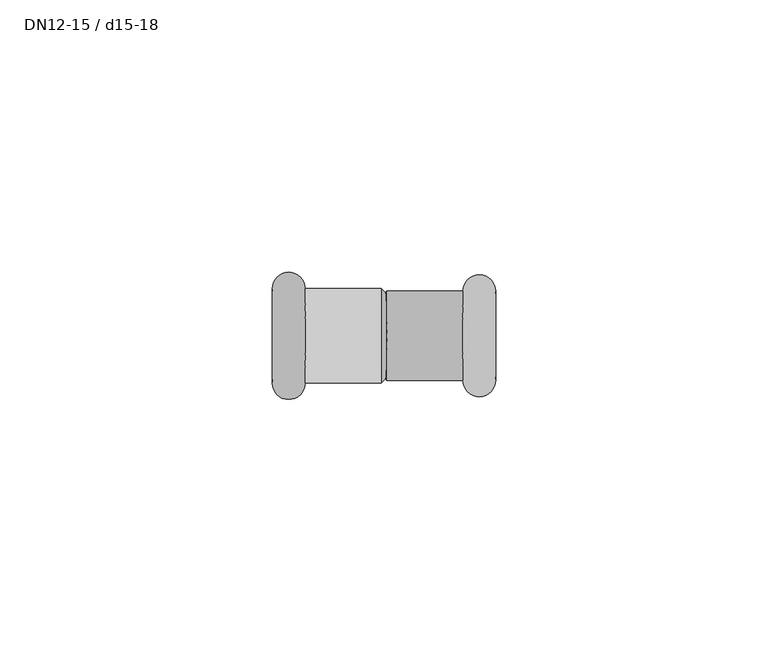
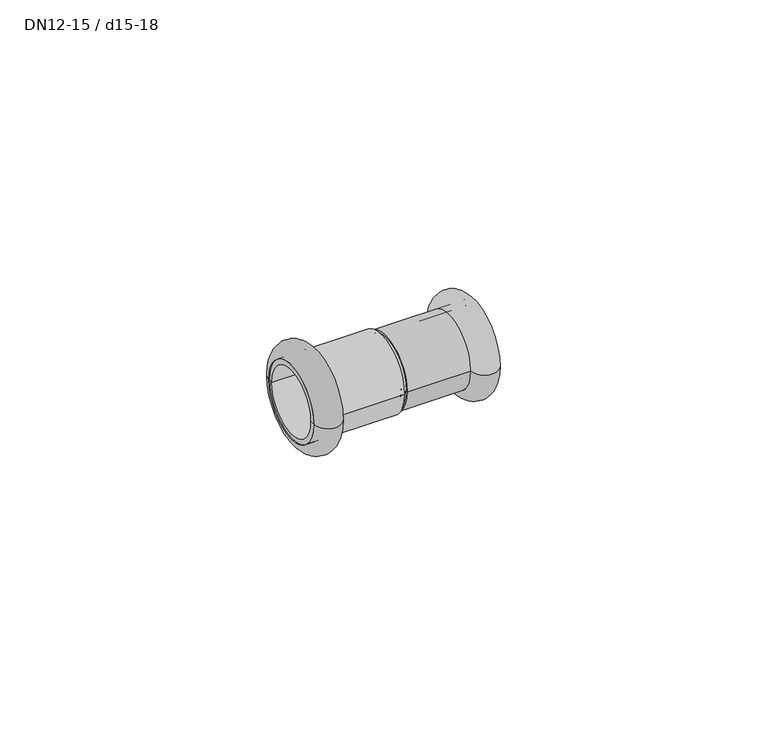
"""IFC4 building model written with IfcOpenShell, lengths in millimetres: pipe fitting geometry, NLRS_50_PIF_UN_Mapress koper verloopsok overgang_geb : DN12-15 / d15-18."""

from ifc_helpers import new_model, si_unit, point, frame, origin, place, context, project, spatial, polyline, circle_curve, ellipse_curve, trimmed, source, transform, mapped, element, save
from ifc_brep_helpers import plane_surface, cylinder_surface, revolved_surface, advanced_brep


def dn12_15_d15_18_9d24d5f7(model_context):
    return source(origin(), model_context, "Body", "AdvancedBrep", [
        advanced_brep(
        [(-20.5, -8.7, 0.0), (-14.5, -8.7, 0.0), (-14.5, 8.7, 0.0), (-20.5, 8.7, 0.0)],
        [
            (0, 1),
            (1, 2, circle_curve(frame((-14.5, 0.0, 0.0), z_axis=(1.0, 0.0, 0.0), x_axis=(0.0, 1.0, 0.0)), 8.7)),
            (2, 3),
            (3, 0, circle_curve(frame((-20.5, 0.0, 0.0), z_axis=(-1.0, 0.0, 0.0), x_axis=(0.0, 1.0, 0.0)), 8.7)),
            (2, 1, circle_curve(frame((-14.5, 0.0, 0.0), z_axis=(1.0, 0.0, 0.0), x_axis=(0.0, 1.0, 0.0)), 8.7)),
            (0, 3, circle_curve(frame((-20.5, 0.0, 0.0), z_axis=(-1.0, 0.0, 0.0), x_axis=(0.0, 1.0, 0.0)), 8.7)),
            (1, 0, circle_curve(frame((-17.5, -8.7, 0.0), z_axis=(0.0, 0.0, -1.0), x_axis=(-1.0, 0.0, 0.0)), 3.0)),
            (3, 2, circle_curve(frame((-17.5, 8.7, 0.0), z_axis=(0.0, 0.0, -1.0), x_axis=(-1.0, 0.0, 0.0)), 3.0)),
        ],
        [
            revolved_surface(polyline([(-14.499999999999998, 8.7, 0.0), (-20.5, 8.7, 0.0)]), (9.8779068, 0.0, 0.0), (1.0, 0.0, 0.0)),
            revolved_surface(trimmed(ellipse_curve(frame((-17.5, 8.7, 0.0), z_axis=(0.0, 0.0, -1.0), x_axis=(-1.0, 0.0, 0.0)), 3.0, 3.0), [point((-20.5, 8.7, 0.0))], [point((-14.5, 8.7, 0.0))], True, "CARTESIAN"), (9.8779068, 0.0, 0.0), (1.0, 0.0, 0.0)),
        ],
        [
            (0, [[1, 2, 3, 4]]),
            (0, [[-3, 5, -1, 6]]),
            (1, [[7, -4, 8, -2]]),
            (1, [[-8, -6, -7, -5]]),
        ],
    ),
        advanced_brep(
        [(-20.5, -7.5, 0.0), (0.7, -7.5, 0.0), (0.7, 7.5, 0.0), (-20.5, 7.5, 0.0), (-0.5, -8.7, 0.0), (-20.5, -8.7, 0.0), (-20.5, 8.7, 0.0), (-0.5, 8.7, 0.0)],
        [
            (0, 1),
            (1, 2, circle_curve(frame((0.7, 0.0, 0.0), z_axis=(1.0, 0.0, 0.0), x_axis=(0.0, 1.0, 0.0)), 7.5)),
            (2, 3),
            (3, 0, circle_curve(frame((-20.5, 0.0, 0.0), z_axis=(-1.0, 0.0, 0.0), x_axis=(0.0, 1.0, 0.0)), 7.5)),
            (2, 1, circle_curve(frame((0.7, 0.0, 0.0), z_axis=(1.0, 0.0, 0.0), x_axis=(0.0, 1.0, 0.0)), 7.5)),
            (0, 3, circle_curve(frame((-20.5, 0.0, 0.0), z_axis=(-1.0, 0.0, 0.0), x_axis=(0.0, 1.0, 0.0)), 7.5)),
            (4, 5),
            (5, 6, circle_curve(frame((-20.5, 0.0, 0.0), z_axis=(1.0, 0.0, 0.0), x_axis=(0.0, 1.0, 0.0)), 8.7)),
            (6, 7),
            (7, 4, circle_curve(frame((-0.5, 0.0, 0.0), z_axis=(-1.0, 0.0, 0.0), x_axis=(0.0, 1.0, 0.0)), 8.7)),
            (6, 5, circle_curve(frame((-20.5, 0.0, 0.0), z_axis=(1.0, 0.0, 0.0), x_axis=(0.0, 1.0, 0.0)), 8.7)),
            (4, 7, circle_curve(frame((-0.5, 0.0, 0.0), z_axis=(-1.0, 0.0, 0.0), x_axis=(0.0, 1.0, 0.0)), 8.7)),
            (5, 0),
            (3, 6),
            (1, 4),
            (7, 2),
        ],
        [
            revolved_surface(polyline([(0.7, 7.5, 0.0), (-20.5, 7.5, 0.0)]), (-0.5, 0.0, 0.0), (1.0, 0.0, 0.0)),
            cylinder_surface(frame((-0.5, 0.0, 0.0), z_axis=(1.0, 0.0, 0.0), x_axis=(0.0, 1.0, 0.0)), 8.7),
            plane_surface(frame((-20.5, 0.0, 0.0), z_axis=(-1.0, 0.0, 0.0), x_axis=(0.0, 1.0, 0.0))),
            revolved_surface(polyline([(-0.5, 8.7, 0.0), (0.7, 7.5, 0.0)]), (-0.5, 0.0, 0.0), (1.0, 0.0, 0.0)),
        ],
        [
            (0, [[1, 2, 3, 4]]),
            (0, [[-3, 5, -1, 6]]),
            (1, [[7, 8, 9, 10]]),
            (1, [[-9, 11, -7, 12]]),
            (2, [[13, -4, 14, -8]]),
            (2, [[-14, -6, -13, -11]]),
            (3, [[15, -10, 16, -2]]),
            (3, [[-16, -12, -15, -5]]),
        ],
    ),
        advanced_brep(
        [(20.5, -8.2, 0.0), (20.5, 8.2, 0.0), (14.5, 8.2, 0.0), (14.5, -8.2, 0.0)],
        [
            (0, 1, circle_curve(frame((20.5, 0.0, 0.0), z_axis=(1.0, 0.0, 0.0), x_axis=(0.0, 1.0, 0.0)), 8.2)),
            (1, 2),
            (2, 3, circle_curve(frame((14.5, 0.0, 0.0), z_axis=(-1.0, 0.0, 0.0), x_axis=(0.0, 1.0, 0.0)), 8.2)),
            (3, 0),
            (1, 0, circle_curve(frame((20.5, 0.0, 0.0), z_axis=(1.0, 0.0, 0.0), x_axis=(0.0, 1.0, 0.0)), 8.2)),
            (3, 2, circle_curve(frame((14.5, 0.0, 0.0), z_axis=(-1.0, 0.0, 0.0), x_axis=(0.0, 1.0, 0.0)), 8.2)),
            (2, 1, circle_curve(frame((17.5, 8.2, 0.0), z_axis=(0.0, 0.0, -1.0), x_axis=(1.0, 0.0, 0.0)), 3.0)),
            (0, 3, circle_curve(frame((17.5, -8.2, 0.0), z_axis=(0.0, 0.0, -1.0), x_axis=(1.0, 0.0, 0.0)), 3.0)),
        ],
        [
            revolved_surface(polyline([(14.499999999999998, 8.2, 0.0), (20.5, 8.2, 0.0)]), (-9.8779068, 0.0, 0.0), (-1.0, 0.0, 0.0)),
            revolved_surface(trimmed(ellipse_curve(frame((17.5, 8.2, 0.0), z_axis=(0.0, 0.0, 1.0), x_axis=(1.0, 0.0, 0.0)), 3.0, 3.0), [point((20.5, 8.2, 0.0))], [point((14.5, 8.2, 0.0))], True, "CARTESIAN"), (-9.8779068, 0.0, 0.0), (-1.0, 0.0, 0.0)),
        ],
        [
            (0, [[1, 2, 3, 4]]),
            (0, [[5, -4, 6, -2]]),
            (1, [[-3, 7, -1, 8]]),
            (1, [[-6, -8, -5, -7]]),
        ],
    ),
        advanced_brep(
        [(20.5, -7.0, 0.0), (20.5, 7.0, 0.0), (-0.7, 7.0, 0.0), (-0.7, -7.0, 0.0), (0.5, -8.2, 0.0), (0.5, 8.2, 0.0), (20.5, 8.2, 0.0), (20.5, -8.2, 0.0)],
        [
            (0, 1, circle_curve(frame((20.5, 0.0, 0.0), z_axis=(1.0, 0.0, 0.0), x_axis=(0.0, 1.0, 0.0)), 7.0)),
            (1, 2),
            (2, 3, circle_curve(frame((-0.7, 0.0, 0.0), z_axis=(-1.0, 0.0, 0.0), x_axis=(0.0, 1.0, 0.0)), 7.0)),
            (3, 0),
            (1, 0, circle_curve(frame((20.5, 0.0, 0.0), z_axis=(1.0, 0.0, 0.0), x_axis=(0.0, 1.0, 0.0)), 7.0)),
            (3, 2, circle_curve(frame((-0.7, 0.0, 0.0), z_axis=(-1.0, 0.0, 0.0), x_axis=(0.0, 1.0, 0.0)), 7.0)),
            (4, 5, circle_curve(frame((0.5, 0.0, 0.0), z_axis=(1.0, 0.0, 0.0), x_axis=(0.0, 1.0, 0.0)), 8.2)),
            (5, 6),
            (6, 7, circle_curve(frame((20.5, 0.0, 0.0), z_axis=(-1.0, 0.0, 0.0), x_axis=(0.0, 1.0, 0.0)), 8.2)),
            (7, 4),
            (5, 4, circle_curve(frame((0.5, 0.0, 0.0), z_axis=(1.0, 0.0, 0.0), x_axis=(0.0, 1.0, 0.0)), 8.2)),
            (7, 6, circle_curve(frame((20.5, 0.0, 0.0), z_axis=(-1.0, 0.0, 0.0), x_axis=(0.0, 1.0, 0.0)), 8.2)),
            (6, 1),
            (0, 7),
            (2, 5),
            (4, 3),
        ],
        [
            revolved_surface(polyline([(-0.7, 7.0, 0.0), (20.5, 7.0, 0.0)]), (0.5, 0.0, 0.0), (-1.0, 0.0, 0.0)),
            cylinder_surface(frame((0.5, 0.0, 0.0), z_axis=(-1.0, 0.0, 0.0), x_axis=(0.0, 1.0, 0.0)), 8.2),
            plane_surface(frame((20.5, 0.0, 0.0), z_axis=(1.0, 0.0, 0.0), x_axis=(0.0, 1.0, 0.0))),
            revolved_surface(polyline([(0.5, 8.2, 0.0), (-0.7, 7.0, 0.0)]), (0.5, 0.0, 0.0), (-1.0, 0.0, 0.0)),
        ],
        [
            (0, [[1, 2, 3, 4]]),
            (0, [[5, -4, 6, -2]]),
            (1, [[7, 8, 9, 10]]),
            (1, [[11, -10, 12, -8]]),
            (2, [[-9, 13, -1, 14]]),
            (2, [[-12, -14, -5, -13]]),
            (3, [[-3, 15, -7, 16]]),
            (3, [[-6, -16, -11, -15]]),
        ],
    ),
        advanced_brep(
        [(0.5, -6.0, 0.0), (0.5, 6.0, 0.0), (-0.5, -7.5, 0.0), (-0.5, 7.5, 0.0)],
        [
            (0, 1, circle_curve(frame((0.5, 0.0, 0.0), z_axis=(1.0, 0.0, 0.0), x_axis=(0.0, -1.0, 0.0)), 6.0)),
            (1, 0, circle_curve(frame((0.5, 0.0, 0.0), z_axis=(1.0, 0.0, 0.0), x_axis=(0.0, 1.0, 0.0)), 6.0)),
            (2, 3, circle_curve(frame((-0.5, 0.0, 0.0), z_axis=(-1.0, 0.0, 0.0), x_axis=(0.0, 1.0, 0.0)), 7.5)),
            (3, 2, circle_curve(frame((-0.5, 0.0, 0.0), z_axis=(-1.0, 0.0, 0.0), x_axis=(0.0, -1.0, 0.0)), 7.5)),
            (3, 1),
            (0, 2),
        ],
        [
            plane_surface(frame((0.5, 0.0, 0.0), z_axis=(1.0, 0.0, 0.0), x_axis=(0.0, 0.0, -1.0))),
            plane_surface(frame((-0.5, 0.0, 0.0), z_axis=(-1.0, 0.0, 0.0), x_axis=(0.0, 0.0, -1.0))),
            revolved_surface(polyline([(0.5, -6.0, 0.0), (-0.5, -7.5, 0.0)]), (4.5, 0.0, 0.0), (-1.0, 0.0, 0.0)),
            revolved_surface(polyline([(0.5, 6.0, 0.0), (-0.5, 7.5, 0.0)]), (4.5, 0.0, 0.0), (-1.0, 0.0, 0.0)),
        ],
        [
            (0, [[1, 2]]),
            (1, [[3, 4]]),
            (2, [[-4, 5, -1, 6]]),
            (3, [[-3, -6, -2, -5]]),
        ],
    ),
    ])


if __name__ == "__main__":
    model = new_model("IFC4")
    model_context = context("Model", 3, world=origin())
    ifc_project = project(units=[si_unit("LENGTHUNIT", "METRE", prefix="MILLI")], contexts=[model_context])
    site = spatial("IfcSite", under=ifc_project)
    building = spatial("IfcBuilding", under=site)
    placement = place(None, origin())
    dn12_15_d15_18_shape = dn12_15_d15_18_9d24d5f7(model_context)
    element("IfcPipeFitting", 1, ObjectType="NLRS_50_PIF_UN_Mapress koper verloopsok overgang_geb : DN12-15 / d15-18", at=placement, inside=building, context=model_context, shape_type="MappedRepresentation", body=[
        mapped(dn12_15_d15_18_shape, transform((0.0, 0.0, 0.0), x_axis=(1.0, 0.0, 0.0), y_axis=(0.0, 1.0, 0.0), z_axis=(0.0, 0.0, 1.0))),
    ])
    save(model, "model.ifc")
